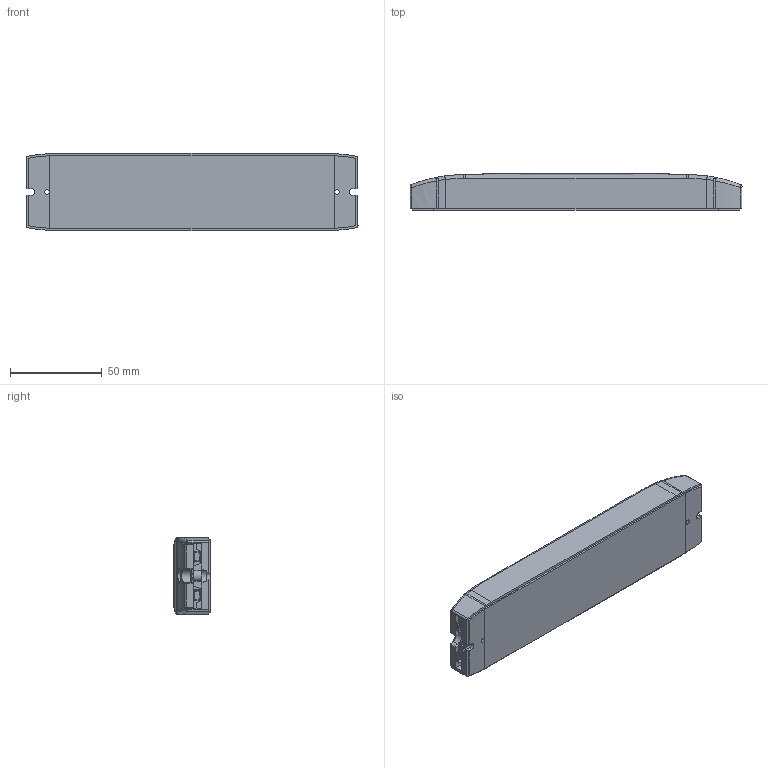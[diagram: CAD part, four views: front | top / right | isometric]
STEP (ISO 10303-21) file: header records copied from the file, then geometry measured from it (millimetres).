
FILE_DESCRIPTION((''),'2;1');
FILE_NAME('ZHUANGPEITU_ASM','2021-08-24T',('tao.su'),(''),'PRO/ENGINEER BY PARAMETRIC TECHNOLOGY CORPORATION, 2010280','PRO/ENGINEER BY PARAMETRIC TECHNOLOGY CORPORATION, 2010280','');
FILE_SCHEMA(('CONFIG_CONTROL_DESIGN'));
Length unit declared in the file: millimetre
Products named in the file (8): TOP; PCB; DUANZITAI-2; BOMAKAIGUAN; PCB_ASM; BOTTOM; SIDE; ZHUANGPEITU_ASM
Assembly tree (12 placements, depth 3):
  ZHUANGPEITU_ASM
    TOP
    PCB_ASM
      PCB
      DUANZITAI-2  x5
      BOMAKAIGUAN
    BOTTOM
    SIDE  x2
Bounding box: 181 x 20 x 42 mm (x, y, z)
Volume: 47933.8 mm3; surface area: 74029.3 mm2
Topology: 11 solids, 11 shells, 1517 faces, 4140 edges, 2682 vertices
Faces by surface type: plane 931, cylinder 268, bspline 150, extrusion 128, torus 20, cone 12, sphere 8
Entity records: 46219 total; most frequent: CARTESIAN_POINT 17093, ORIENTED_EDGE 6458, DIRECTION 5318, EDGE_CURVE 3229, VECTOR 2316, LINE 2221, VERTEX_POINT 2095, AXIS2_PLACEMENT_3D 1501
